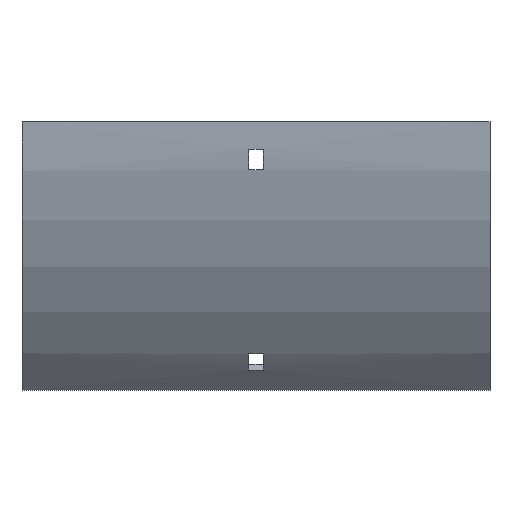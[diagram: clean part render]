
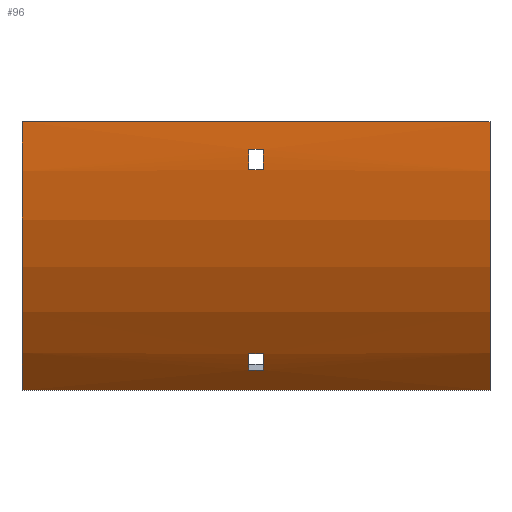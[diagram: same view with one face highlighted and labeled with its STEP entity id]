
A CAD part, front view. The second image highlights one B-rep face of the part: STEP entity #96.
In plain terms, the highlighted cylindrical face has radius 165.5 mm (diameter 331 mm), a partial arc.
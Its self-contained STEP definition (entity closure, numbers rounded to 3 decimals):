
#13 = CARTESIAN_POINT ( 'NONE',  ( -3.25, -30.929, -101.231 ) ) ;
#14 = DIRECTION ( 'NONE',  ( -1., 0., 0. ) ) ;
#20 = ORIENTED_EDGE ( 'NONE', *, *, #921, .F. ) ;
#36 = VERTEX_POINT ( 'NONE', #928 ) ;
#41 = AXIS2_PLACEMENT_3D ( 'NONE', #831, #1004, #736 ) ;
#44 = VERTEX_POINT ( 'NONE', #1038 ) ;
#52 = CIRCLE ( 'NONE', #694, 165.5 ) ;
#56 = CARTESIAN_POINT ( 'NONE',  ( -3.25, 100., 0. ) ) ;
#84 = ORIENTED_EDGE ( 'NONE', *, *, #234, .F. ) ;
#85 = VECTOR ( 'NONE', #1077, 1000. ) ;
#95 = VERTEX_POINT ( 'NONE', #208 ) ;
#96 = ADVANCED_FACE ( 'NONE', ( #1001, #298, #904 ), #924, .T. ) ;
#100 = EDGE_CURVE ( 'NONE', #692, #536, #293, .T. ) ;
#109 = DIRECTION ( 'NONE',  ( 1., 0., 0. ) ) ;
#128 = AXIS2_PLACEMENT_3D ( 'NONE', #992, #356, #207 ) ;
#129 = DIRECTION ( 'NONE',  ( 0., 0., -1. ) ) ;
#130 = CARTESIAN_POINT ( 'NONE',  ( 102., 100., 0. ) ) ;
#147 = EDGE_CURVE ( 'NONE', #319, #95, #567, .T. ) ;
#152 = VECTOR ( 'NONE', #1098, 1000. ) ;
#164 = AXIS2_PLACEMENT_3D ( 'NONE', #130, #393, #815 ) ;
#170 = EDGE_CURVE ( 'NONE', #319, #373, #196, .T. ) ;
#185 = AXIS2_PLACEMENT_3D ( 'NONE', #56, #867, #945 ) ;
#196 = LINE ( 'NONE', #202, #315 ) ;
#198 = DIRECTION ( 'NONE',  ( -1., 0., 0. ) ) ;
#202 = CARTESIAN_POINT ( 'NONE',  ( 102., -65.5, 0. ) ) ;
#206 = CARTESIAN_POINT ( 'NONE',  ( -3.25, -25.203, -108.233 ) ) ;
#207 = DIRECTION ( 'NONE',  ( 0., 0., -1. ) ) ;
#208 = CARTESIAN_POINT ( 'NONE',  ( 102., -17.026, -117.026 ) ) ;
#212 = CIRCLE ( 'NONE', #1044, 165.5 ) ;
#216 = CARTESIAN_POINT ( 'NONE',  ( -102., 100., 0. ) ) ;
#220 = EDGE_CURVE ( 'NONE', #44, #920, #1054, .T. ) ;
#234 = EDGE_CURVE ( 'NONE', #536, #632, #720, .T. ) ;
#240 = LINE ( 'NONE', #1141, #812 ) ;
#293 = LINE ( 'NONE', #474, #622 ) ;
#298 = FACE_BOUND ( 'NONE', #1089, .T. ) ;
#313 = VECTOR ( 'NONE', #198, 1000. ) ;
#315 = VECTOR ( 'NONE', #14, 1000. ) ;
#319 = VERTEX_POINT ( 'NONE', #1081 ) ;
#322 = EDGE_CURVE ( 'NONE', #36, #44, #1008, .T. ) ;
#325 = VERTEX_POINT ( 'NONE', #412 ) ;
#329 = CARTESIAN_POINT ( 'NONE',  ( -3.25, -65.064, -12. ) ) ;
#356 = DIRECTION ( 'NONE',  ( 1., 0., 0. ) ) ;
#373 = VERTEX_POINT ( 'NONE', #791 ) ;
#392 = DIRECTION ( 'NONE',  ( 0., 0., -1. ) ) ;
#393 = DIRECTION ( 'NONE',  ( 1., 0., 0. ) ) ;
#408 = DIRECTION ( 'NONE',  ( 0., 0., 1. ) ) ;
#412 = CARTESIAN_POINT ( 'NONE',  ( 3.25, -65.064, -12. ) ) ;
#465 = EDGE_LOOP ( 'NONE', ( #1006, #656, #970, #1109 ) ) ;
#466 = CARTESIAN_POINT ( 'NONE',  ( 102., -17.026, -117.026 ) ) ;
#474 = CARTESIAN_POINT ( 'NONE',  ( 102., -25.203, -108.233 ) ) ;
#504 = CARTESIAN_POINT ( 'NONE',  ( 3.25, -30.929, -101.231 ) ) ;
#530 = CARTESIAN_POINT ( 'NONE',  ( 102., -65.064, -12. ) ) ;
#534 = EDGE_LOOP ( 'NONE', ( #703, #20, #84, #826 ) ) ;
#536 = VERTEX_POINT ( 'NONE', #916 ) ;
#543 = EDGE_CURVE ( 'NONE', #373, #748, #212, .T. ) ;
#558 = EDGE_CURVE ( 'NONE', #325, #36, #52, .T. ) ;
#567 = CIRCLE ( 'NONE', #164, 165.5 ) ;
#582 = DIRECTION ( 'NONE',  ( -1., 0., 0. ) ) ;
#622 = VECTOR ( 'NONE', #109, 1000. ) ;
#632 = VERTEX_POINT ( 'NONE', #504 ) ;
#656 = ORIENTED_EDGE ( 'NONE', *, *, #724, .F. ) ;
#671 = DIRECTION ( 'NONE',  ( -1., 0., 0. ) ) ;
#692 = VERTEX_POINT ( 'NONE', #206 ) ;
#694 = AXIS2_PLACEMENT_3D ( 'NONE', #1003, #923, #129 ) ;
#703 = ORIENTED_EDGE ( 'NONE', *, *, #864, .F. ) ;
#709 = ORIENTED_EDGE ( 'NONE', *, *, #558, .T. ) ;
#720 = CIRCLE ( 'NONE', #910, 165.5 ) ;
#724 = EDGE_CURVE ( 'NONE', #95, #748, #908, .T. ) ;
#736 = DIRECTION ( 'NONE',  ( 0., 0., 1. ) ) ;
#748 = VERTEX_POINT ( 'NONE', #828 ) ;
#754 = ORIENTED_EDGE ( 'NONE', *, *, #1103, .T. ) ;
#791 = CARTESIAN_POINT ( 'NONE',  ( -102., -65.5, 0. ) ) ;
#812 = VECTOR ( 'NONE', #671, 1000. ) ;
#815 = DIRECTION ( 'NONE',  ( 0., 0., -1. ) ) ;
#817 = VERTEX_POINT ( 'NONE', #13 ) ;
#826 = ORIENTED_EDGE ( 'NONE', *, *, #100, .F. ) ;
#828 = CARTESIAN_POINT ( 'NONE',  ( -102., -17.026, -117.026 ) ) ;
#831 = CARTESIAN_POINT ( 'NONE',  ( 102., 100., 0. ) ) ;
#835 = DIRECTION ( 'NONE',  ( 1., 0., 0. ) ) ;
#847 = CARTESIAN_POINT ( 'NONE',  ( 102., -64.162, -21. ) ) ;
#864 = EDGE_CURVE ( 'NONE', #817, #692, #973, .T. ) ;
#867 = DIRECTION ( 'NONE',  ( -1., 0., 0. ) ) ;
#904 = FACE_BOUND ( 'NONE', #534, .T. ) ;
#908 = LINE ( 'NONE', #466, #152 ) ;
#910 = AXIS2_PLACEMENT_3D ( 'NONE', #1033, #582, #408 ) ;
#916 = CARTESIAN_POINT ( 'NONE',  ( 3.25, -25.203, -108.233 ) ) ;
#920 = VERTEX_POINT ( 'NONE', #329 ) ;
#921 = EDGE_CURVE ( 'NONE', #632, #817, #240, .T. ) ;
#923 = DIRECTION ( 'NONE',  ( 1., 0., 0. ) ) ;
#924 = CYLINDRICAL_SURFACE ( 'NONE', #41, 165.5 ) ;
#928 = CARTESIAN_POINT ( 'NONE',  ( 3.25, -64.162, -21. ) ) ;
#945 = DIRECTION ( 'NONE',  ( 0., 0., 1. ) ) ;
#970 = ORIENTED_EDGE ( 'NONE', *, *, #147, .F. ) ;
#973 = CIRCLE ( 'NONE', #128, 165.5 ) ;
#976 = ORIENTED_EDGE ( 'NONE', *, *, #220, .T. ) ;
#992 = CARTESIAN_POINT ( 'NONE',  ( -3.25, 100., 0. ) ) ;
#1001 = FACE_OUTER_BOUND ( 'NONE', #465, .T. ) ;
#1003 = CARTESIAN_POINT ( 'NONE',  ( 3.25, 100., 0. ) ) ;
#1004 = DIRECTION ( 'NONE',  ( -1., 0., 0. ) ) ;
#1006 = ORIENTED_EDGE ( 'NONE', *, *, #543, .T. ) ;
#1008 = LINE ( 'NONE', #847, #313 ) ;
#1033 = CARTESIAN_POINT ( 'NONE',  ( 3.25, 100., 0. ) ) ;
#1038 = CARTESIAN_POINT ( 'NONE',  ( -3.25, -64.162, -21. ) ) ;
#1044 = AXIS2_PLACEMENT_3D ( 'NONE', #216, #835, #392 ) ;
#1054 = CIRCLE ( 'NONE', #185, 165.5 ) ;
#1057 = LINE ( 'NONE', #530, #85 ) ;
#1077 = DIRECTION ( 'NONE',  ( 1., 0., 0. ) ) ;
#1081 = CARTESIAN_POINT ( 'NONE',  ( 102., -65.5, 0. ) ) ;
#1089 = EDGE_LOOP ( 'NONE', ( #1144, #976, #754, #709 ) ) ;
#1098 = DIRECTION ( 'NONE',  ( -1., 0., 0. ) ) ;
#1103 = EDGE_CURVE ( 'NONE', #920, #325, #1057, .T. ) ;
#1109 = ORIENTED_EDGE ( 'NONE', *, *, #170, .T. ) ;
#1141 = CARTESIAN_POINT ( 'NONE',  ( 102., -30.929, -101.231 ) ) ;
#1144 = ORIENTED_EDGE ( 'NONE', *, *, #322, .T. ) ;
